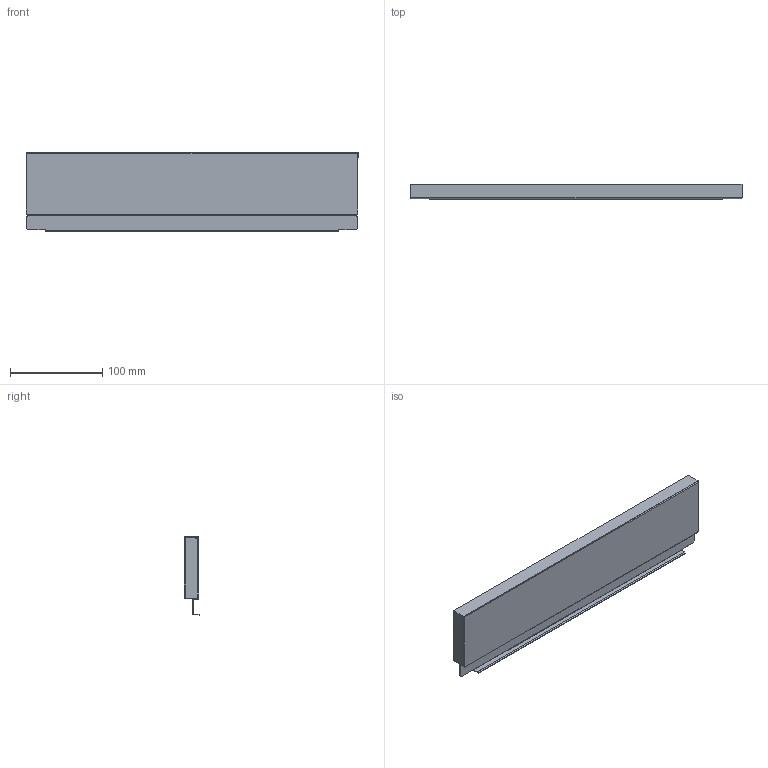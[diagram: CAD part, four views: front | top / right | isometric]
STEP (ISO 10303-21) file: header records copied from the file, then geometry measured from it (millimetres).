
FILE_DESCRIPTION (( 'STEP AP214' ), '1' );
FILE_NAME ('_STRW_H90_KAB_450.step', '2010-08-24T14:40:13', ( 'grass' ), ( '' ), 'SwSTEP 2.0', 'SolidWorks 2009', '' );
FILE_SCHEMA (( 'AUTOMOTIVE_DESIGN' ));
Length unit declared in the file: millimetre
Products named in the file (1): _STRW_H90_KAB_450
Bounding box: 360 x 17 x 85.14 mm (x, y, z)
Volume: 34058.7 mm3; surface area: 85980.7 mm2
Topology: 1 solids, 1 shells, 76 faces, 214 edges, 140 vertices
Faces by surface type: plane 54, cylinder 22
Entity records: 2472 total; most frequent: CARTESIAN_POINT 431, ORIENTED_EDGE 428, DIRECTION 412, EDGE_CURVE 214, LINE 170, VECTOR 170, VERTEX_POINT 140, AXIS2_PLACEMENT_3D 121
